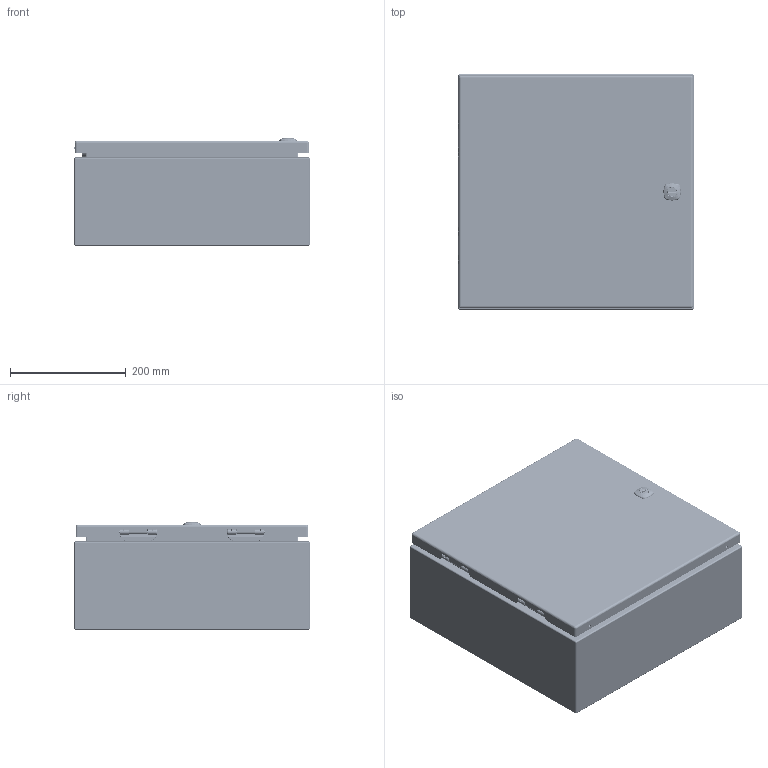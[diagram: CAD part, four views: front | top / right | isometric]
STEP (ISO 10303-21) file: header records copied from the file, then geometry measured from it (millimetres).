
FILE_DESCRIPTION(/* description */ ('5412ES 16" x 16" x 6" Assembly'),/* implementation_level */ '2;1');
FILE_NAME(/* name */ '5412ESB161606.stp',/* time_stamp */ '2024-01-19T11:23:23-05:00',/* author */ ('BoxCad'),/* organization */ (''),/* preprocessor_version */ 'ST-DEVELOPER v20',/* originating_system */ 'Autodesk Inventor 2024',/* authorisation */ '');
FILE_SCHEMA (('AUTOMOTIVE_DESIGN { 1 0 10303 214 3 1 1 }'));
Products named in the file (43): 5412ESB161606; 5412ESB161606B; 5412ESB161606B-P; STK-Q-16005; STUD_M6 x 16mm; 5412ESB161606C; 5412ESB161606C-P; 5412ESB161606G; STK-K-09800; STK-K-09800-2; STK-Q-33014; STK-Q-90398; STK-Q-40095; STK-Q-63410; STK-Q-16055; STK-Q-46020-16; STK-Q-07220-1; STK-Q-07220-2; STK-Q-07220-3; STK-Q-07220-4; STK-Q-07220-A; STK-Q-07220-B; STK-P-03820R; STK-S-00100; STK-K-12500; STK-Q-78111; STK-Q-78141; STK-Q-78120; STK-Q-78145; STK-Q-03200; STK-Q-78160; STK-Q-90390; STK-Q-78111-R; STK-Q-04050-08-1; STK-Q-04050-08-2; STK-Q-04050-08-P; STK-Q-04051-N; STK-A-01800; 5412ESB161606IPK; STK-Q-07610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
Assembly tree (73 placements, depth 4):
  5412ESB161606
    5412ESB161606B
      5412ESB161606B-P
      STK-Q-16005  x4
      STK-P-03820R
      STUD_M6 x 16mm
    5412ESB161606C
      5412ESB161606C-P
      5412ESB161606G
      STK-K-09800
        STK-Q-33014
        STK-Q-90398
        STK-Q-40095  x2
        STK-Q-63410  x2
      STK-K-09800-2
        STK-Q-33014
        STK-Q-90398
        STK-Q-40095  x2
        STK-Q-63410  x2
      STK-Q-16055  x4
      STK-Q-46020-16  x2
      STK-Q-07220-1
        STK-Q-07220-A
        STK-Q-07220-B
      STK-Q-07220-2
        STK-Q-07220-A
        STK-Q-07220-B
      STK-Q-07220-3
        STK-Q-07220-A
        STK-Q-07220-B
      STK-Q-07220-4
        STK-Q-07220-A
        STK-Q-07220-B
      STK-P-03820R
      STK-S-00100  x2
      STK-K-12500
        STK-Q-78111
        STK-Q-78141
        STK-Q-78120
        STK-Q-78145
        STK-Q-03200
        STK-Q-78160
        STK-Q-90390
        STK-Q-78111-R
    STK-Q-04050-08-1
      STK-Q-04050-08-P
      STK-Q-04051-N
    STK-Q-04050-08-2
      STK-Q-04050-08-P
      STK-Q-04051-N
    STK-A-01800
    5412ESB161606IPK
      STK-Q-07610  x4
      STK-Q-07310  x4
    881SP1616G
      881SP1616G-P
Bounding box: 406.47 x 406.4 x 185.67 mm (x, y, z)
Volume: 1379707.3 mm3; surface area: 1756188.6 mm2
Topology: 57 solids, 57 shells, 8182 faces, 21798 edges, 13746 vertices
Faces by surface type: bspline 3020, cylinder 2248, plane 2049, torus 556, sphere 182, cone 127
Full cylindrical faces by diameter (mm): 0 x1, 0.75 x9, 0.762 x9, 1 x8, 1.1 x8, 3.2 x4, 4.191 x24, 4.5 x4, 4.521 x8, 4.75 x2, 4.85 x16, 4.95 x4, 5 x4, 5.1 x22, 5.156 x4, 5.6 x2, 5.9 x18, 6.015 x24, 6.65 x4, 6.8 x4, 6.85 x8, 7.3 x2, 7.366 x4, 7.9 x8, 8 x12, 8.382 x2, 9.5 x4, 9.6 x1, 9.906 x4, 10 x1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
Entity records: 148446 total; most frequent: CARTESIAN_POINT 60212, ORIENTED_EDGE 20018, DIRECTION 14898, EDGE_CURVE 10009, VERTEX_POINT 6252, AXIS2_PLACEMENT_3D 5506, EDGE_LOOP 4145, FACE_OUTER_BOUND 3923
